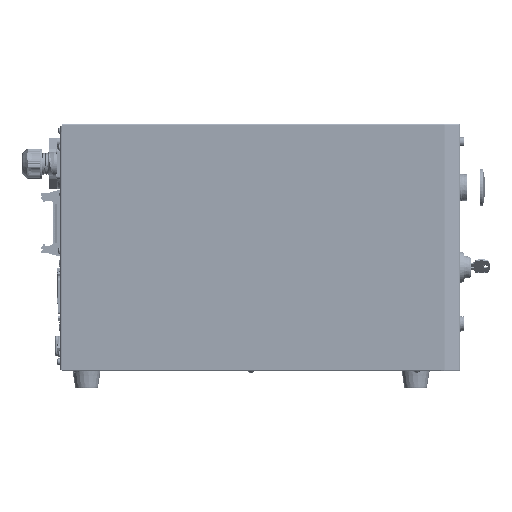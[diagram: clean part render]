
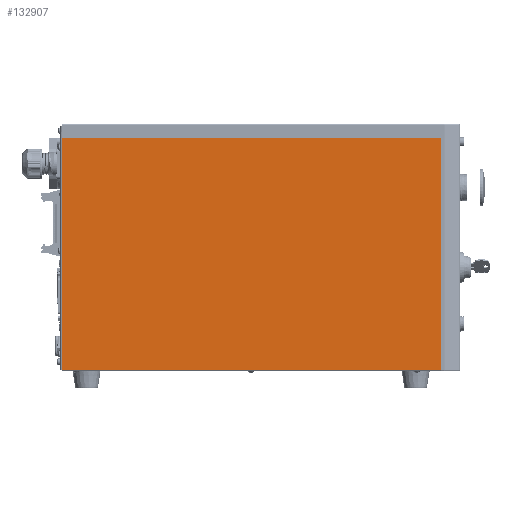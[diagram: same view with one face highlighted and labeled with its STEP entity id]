
A CAD part, left-side view. The second image highlights one B-rep face of the part: STEP entity #132907.
In plain terms, the highlighted planar face has unit normal (-1, 0, 0).
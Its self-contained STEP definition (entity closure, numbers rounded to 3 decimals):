
#5330=PLANE('',#145629);
#12937=FACE_OUTER_BOUND('',#17169,.T.);
#17169=EDGE_LOOP('',(#108097,#108098,#108099,#108100));
#24079=LINE('',#197043,#38531);
#24080=LINE('',#197045,#38532);
#24081=LINE('',#197047,#38533);
#24082=LINE('',#197048,#38534);
#38531=VECTOR('',#158113,1.);
#38532=VECTOR('',#158114,1000.);
#38533=VECTOR('',#158115,1000.);
#38534=VECTOR('',#158116,1000.);
#60506=VERTEX_POINT('',#197041);
#60507=VERTEX_POINT('',#197042);
#60508=VERTEX_POINT('',#197044);
#60509=VERTEX_POINT('',#197046);
#84168=EDGE_CURVE('',#60506,#60507,#24079,.T.);
#84169=EDGE_CURVE('',#60508,#60507,#24080,.T.);
#84170=EDGE_CURVE('',#60508,#60509,#24081,.T.);
#84171=EDGE_CURVE('',#60509,#60506,#24082,.T.);
#108097=ORIENTED_EDGE('',*,*,#84168,.T.);
#108098=ORIENTED_EDGE('',*,*,#84169,.F.);
#108099=ORIENTED_EDGE('',*,*,#84170,.T.);
#108100=ORIENTED_EDGE('',*,*,#84171,.T.);
#132907=ADVANCED_FACE('',(#12937),#5330,.F.);
#145629=AXIS2_PLACEMENT_3D('',#197040,#158111,#158112);
#158111=DIRECTION('center_axis',(1.,0.,0.));
#158112=DIRECTION('ref_axis',(0.,0.,
1.));
#158113=DIRECTION('',(0.,0.,1.));
#158114=DIRECTION('',(0.,-1.,0.));
#158115=DIRECTION('',(0.,0.,-1.));
#158116=DIRECTION('',(0.,-1.,0.));
#197040=CARTESIAN_POINT('Origin',(-3.3,397.2,246.8));
#197041=CARTESIAN_POINT('',(-3.3,-5.7,0.7));
#197042=CARTESIAN_POINT('',(-3.3,-5.7,246.8));
#197043=CARTESIAN_POINT('',(-3.3,-5.7,246.8));
#197044=CARTESIAN_POINT('',(-3.3,397.2,246.8));
#197045=CARTESIAN_POINT('',(-3.3,397.2,246.8));
#197046=CARTESIAN_POINT('',(-3.3,397.2,0.7));
#197047=CARTESIAN_POINT('',(-3.3,397.2,246.8));
#197048=CARTESIAN_POINT('',(-3.3,397.2,0.7));
